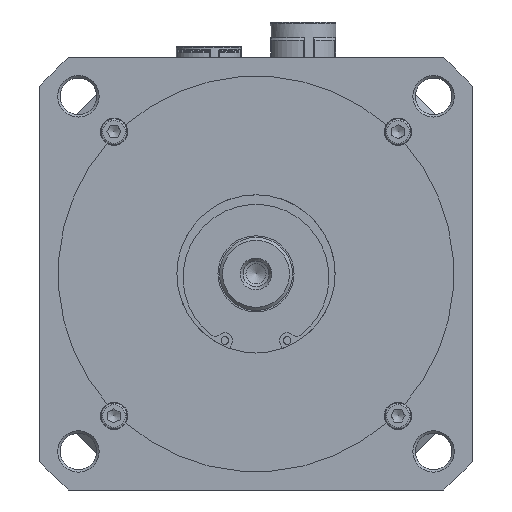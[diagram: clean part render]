
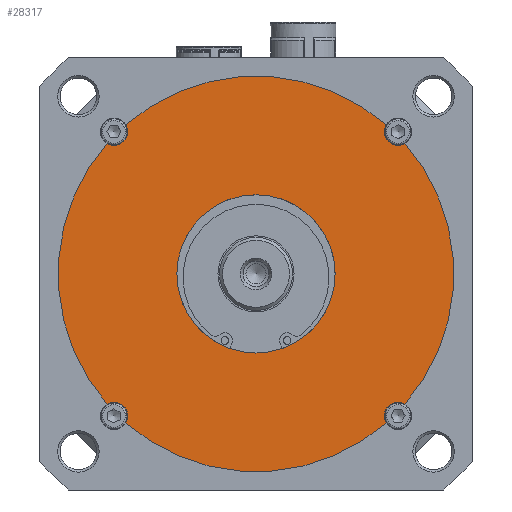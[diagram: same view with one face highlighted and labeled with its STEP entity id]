
A CAD part, left-side view. The second image highlights one B-rep face of the part: STEP entity #28317.
In plain terms, the highlighted planar face has unit normal (-1, 0, 0).
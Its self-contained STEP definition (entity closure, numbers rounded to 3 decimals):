
#1295=FACE_BOUND('',#9003,.T.);
#7154=FACE_OUTER_BOUND('',#9002,.T.);
#9002=EDGE_LOOP('',(#20006,#20007,#20008,#20009,#20010,#20011,#20012,#20013));
#9003=EDGE_LOOP('',(#20014));
#11267=CIRCLE('',#30357,65.);
#11270=CIRCLE('',#30361,65.);
#11272=CIRCLE('',#30364,65.);
#11273=CIRCLE('',#30366,4.5);
#11274=CIRCLE('',#30367,65.);
#11275=CIRCLE('',#30368,4.5);
#11276=CIRCLE('',#30369,4.5);
#11277=CIRCLE('',#30370,4.5);
#11278=CIRCLE('',#30371,26.);
#13219=VERTEX_POINT('',#43102);
#13221=VERTEX_POINT('',#43105);
#13224=VERTEX_POINT('',#43112);
#13226=VERTEX_POINT('',#43116);
#13228=VERTEX_POINT('',#43121);
#13230=VERTEX_POINT('',#43125);
#13231=VERTEX_POINT('',#43129);
#13232=VERTEX_POINT('',#43131);
#13233=VERTEX_POINT('',#43136);
#15867=EDGE_CURVE('',#13219,#13221,#11267,.T.);
#15873=EDGE_CURVE('',#13226,#13224,#11270,.T.);
#15877=EDGE_CURVE('',#13230,#13228,#11272,.T.);
#15878=EDGE_CURVE('',#13231,#13219,#11273,.T.);
#15879=EDGE_CURVE('',#13232,#13231,#11274,.T.);
#15880=EDGE_CURVE('',#13228,#13232,#11275,.T.);
#15881=EDGE_CURVE('',#13224,#13230,#11276,.T.);
#15882=EDGE_CURVE('',#13221,#13226,#11277,.T.);
#15883=EDGE_CURVE('',#13233,#13233,#11278,.T.);
#20006=ORIENTED_EDGE('',*,*,#15878,.F.);
#20007=ORIENTED_EDGE('',*,*,#15879,.F.);
#20008=ORIENTED_EDGE('',*,*,#15880,.F.);
#20009=ORIENTED_EDGE('',*,*,#15877,.F.);
#20010=ORIENTED_EDGE('',*,*,#15881,.F.);
#20011=ORIENTED_EDGE('',*,*,#15873,.F.);
#20012=ORIENTED_EDGE('',*,*,#15882,.F.);
#20013=ORIENTED_EDGE('',*,*,#15867,.F.);
#20014=ORIENTED_EDGE('',*,*,#15883,.F.);
#27718=PLANE('',#30365);
#28317=ADVANCED_FACE('',(#7154,#1295),#27718,.F.);
#30357=AXIS2_PLACEMENT_3D('',#43106,#34342,#34343);
#30361=AXIS2_PLACEMENT_3D('',#43118,#34353,#34354);
#30364=AXIS2_PLACEMENT_3D('',#43127,#34361,#34362);
#30365=AXIS2_PLACEMENT_3D('',#43128,#34363,#34364);
#30366=AXIS2_PLACEMENT_3D('',#43130,#34365,#34366);
#30367=AXIS2_PLACEMENT_3D('',#43132,#34367,#34368);
#30368=AXIS2_PLACEMENT_3D('',#43133,#34369,#34370);
#30369=AXIS2_PLACEMENT_3D('',#43134,#34371,#34372);
#30370=AXIS2_PLACEMENT_3D('',#43135,#34373,#34374);
#30371=AXIS2_PLACEMENT_3D('',#43137,#34375,#34376);
#34342=DIRECTION('center_axis',(1.,0.,0.));
#34343=DIRECTION('ref_axis',(0.,0.,
-1.));
#34353=DIRECTION('center_axis',(1.,0.,0.));
#34354=DIRECTION('ref_axis',(0.,0.,
-1.));
#34361=DIRECTION('center_axis',(1.,0.,0.));
#34362=DIRECTION('ref_axis',(0.,0.,
-1.));
#34363=DIRECTION('center_axis',(1.,0.,0.));
#34364=DIRECTION('ref_axis',(0.,0.,
-1.));
#34365=DIRECTION('center_axis',(-1.,0.,0.));
#34366=DIRECTION('ref_axis',(0.,1.,0.));
#34367=DIRECTION('center_axis',(1.,0.,0.));
#34368=DIRECTION('ref_axis',(0.,0.,
-1.));
#34369=DIRECTION('center_axis',(-1.,0.,0.));
#34370=DIRECTION('ref_axis',(0.,0.,
-1.));
#34371=DIRECTION('center_axis',(-1.,0.,0.));
#34372=DIRECTION('ref_axis',(0.,-1.,0.));
#34373=DIRECTION('center_axis',(-1.,0.,0.));
#34374=DIRECTION('ref_axis',(0.,0.,
1.));
#34375=DIRECTION('center_axis',(-1.,0.,0.));
#34376=DIRECTION('ref_axis',(0.,1.,0.));
#43102=CARTESIAN_POINT('',(-57.5,48.936,-42.782));
#43105=CARTESIAN_POINT('',(-57.5,48.936,42.782));
#43106=CARTESIAN_POINT('Origin',(-57.5,0.,0.));
#43112=CARTESIAN_POINT('',(-57.5,-42.782,48.936));
#43116=CARTESIAN_POINT('',(-57.5,42.782,48.936));
#43118=CARTESIAN_POINT('Origin',(-57.5,0.,0.));
#43121=CARTESIAN_POINT('',(-57.5,-48.936,-42.782));
#43125=CARTESIAN_POINT('',(-57.5,-48.936,42.782));
#43127=CARTESIAN_POINT('Origin',(-57.5,0.,0.));
#43128=CARTESIAN_POINT('Origin',(-57.5,0.,23.971));
#43129=CARTESIAN_POINT('',(-57.5,42.782,-48.936));
#43130=CARTESIAN_POINT('Origin',(-57.5,46.669,-46.669));
#43131=CARTESIAN_POINT('',(-57.5,-42.782,-48.936));
#43132=CARTESIAN_POINT('Origin',(-57.5,0.,0.));
#43133=CARTESIAN_POINT('Origin',(-57.5,-46.669,-46.669));
#43134=CARTESIAN_POINT('Origin',(-57.5,-46.669,46.669));
#43135=CARTESIAN_POINT('Origin',(-57.5,46.669,46.669));
#43136=CARTESIAN_POINT('',(-57.5,-26.,0.));
#43137=CARTESIAN_POINT('Origin',(-57.5,0.,0.));
